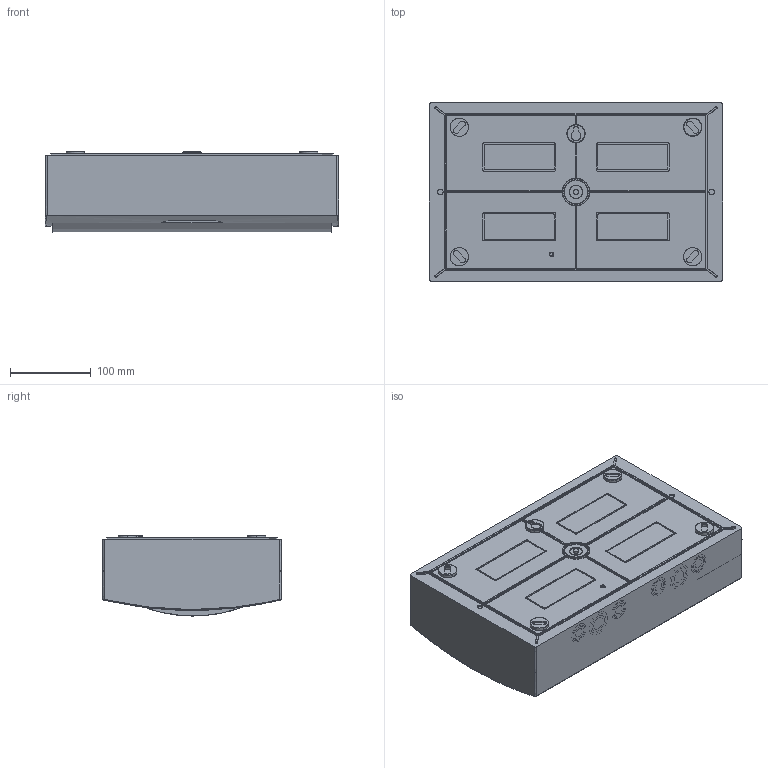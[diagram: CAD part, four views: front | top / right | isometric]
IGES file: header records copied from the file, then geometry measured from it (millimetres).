
Start section: SolidWorks IGES file using analytic representation for surfaces
Global section: file name: Q:\GROUPS\BR_SC_JGS_WA_TECNICO\ENG\Usuarios\Rodrigob\conversão\Linha Predial\Produto\Quadros QDW\QDW\QDW02-S\QDW02-18-S\QDW02-18-S.IGS; native system: SolidWorks 2012; preprocessor: SolidWorks 2012; author: rodrigob; date: 140320.142619; units: millimetre
Bounding box: 362 x 220 x 98.94 mm (x, y, z)
Surface area: 390399 mm2 (no closed solid volume)
Topology: 0 solids, 0 shells, 955 faces, 9988 edges, 9988 vertices
Faces by surface type: bspline 614, revolution 341
